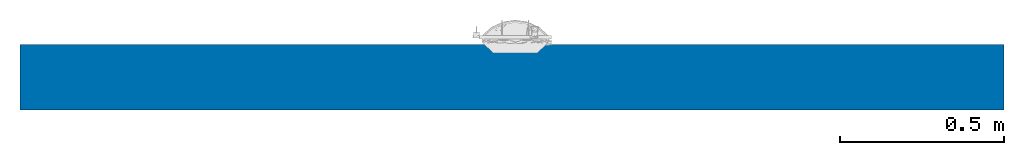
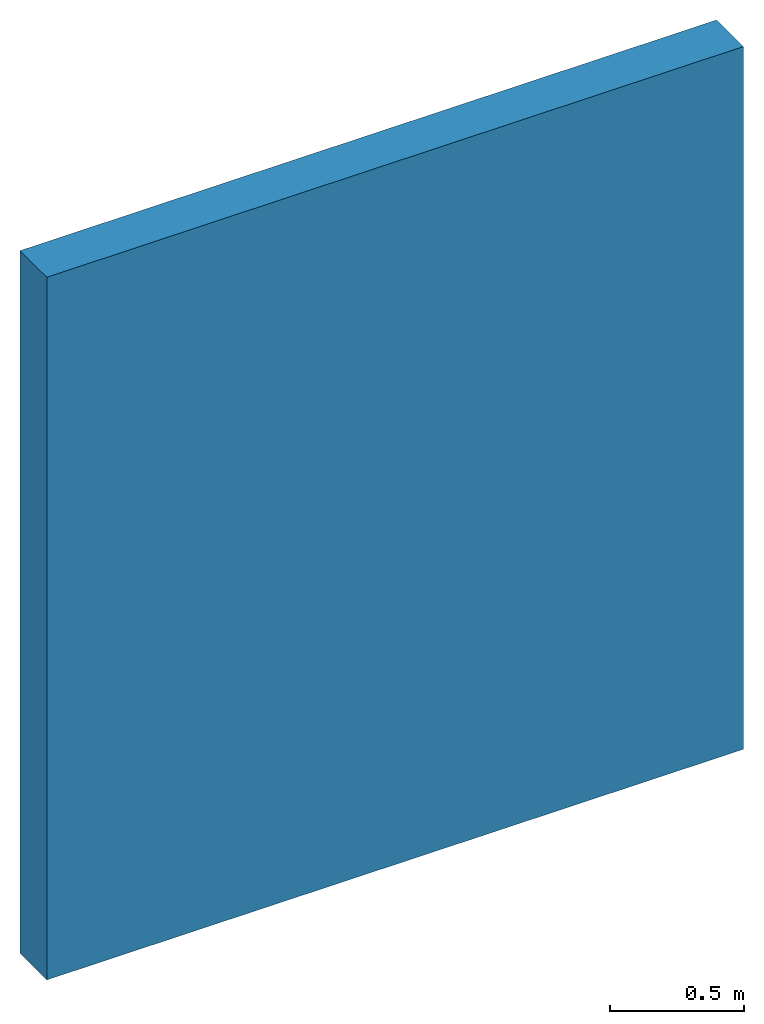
# One storey, incomplete: 1 wall.
"""IFC2X3 building model written with IfcOpenShell, lengths in metres."""

from ifc_helpers import new_model, si_unit, direction, frame, frame_2d, origin, place, context, subcontext, project, spatial, rectangle, extrude, material, layer, layer_set, layer_usage, type_object, element, save


model = new_model("IFC2X3")

# Units and contexts
model_context = context("Model", 3, precision=1e-05, world=origin(), true_north=direction((6.123233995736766e-17, 1.0)))
body_context = subcontext(model_context, "Body", "Model", "MODEL_VIEW")
ifc_project = project(units=[si_unit("LENGTHUNIT", "METRE"), si_unit("AREAUNIT", "SQUARE_METRE")], contexts=[model_context])

# Site, building, storey
site_placement = place(None, origin())
site = spatial("IfcSite", under=ifc_project, at=site_placement, Name="Default", CompositionType="ELEMENT")
building_placement = place(site_placement, origin())
building = spatial("IfcBuilding", under=site, at=building_placement, CompositionType="ELEMENT")
storey_placement = place(building_placement, origin())
storey = spatial("IfcBuildingStorey", under=building, at=storey_placement, Name="Level 1", CompositionType="ELEMENT", Elevation=0.0)

# Wall
ifc_material = material(Name="Default Wall")
ifc_layer = layer(ifc_material, 0.2)
ifc_layer_set = layer_set([ifc_layer], Name="Basic Wall:Wall 20cm2")
ifc_layer_usage = layer_usage(ifc_layer_set, "AXIS2", "NEGATIVE", 0.1)
wall_type = type_object("IfcWallType", Name="Basic Wall:Wall 20cm2", PredefinedType="STANDARD", material=ifc_layer_set)
wall_placement = place(storey_placement, frame((-4.500011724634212, 2.1495190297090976, 0.0)))
element("IfcWallStandardCase", 1, at=wall_placement, inside=storey, type_object=wall_type, material=ifc_layer_usage, Name="Basic Wall:Wall 20cm2", ObjectType="Basic Wall:Wall 20cm2", context=body_context, shape_type="SweptSolid", body=[
    extrude(rectangle(XDim=3.000000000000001, YDim=0.2, at=frame_2d((1.5000000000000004, -5.551115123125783e-17), x_axis=(-1.0, 0.0))), origin(), (0.0, 0.0, 1.0), 3.2),
])

save(model, "model.ifc")
